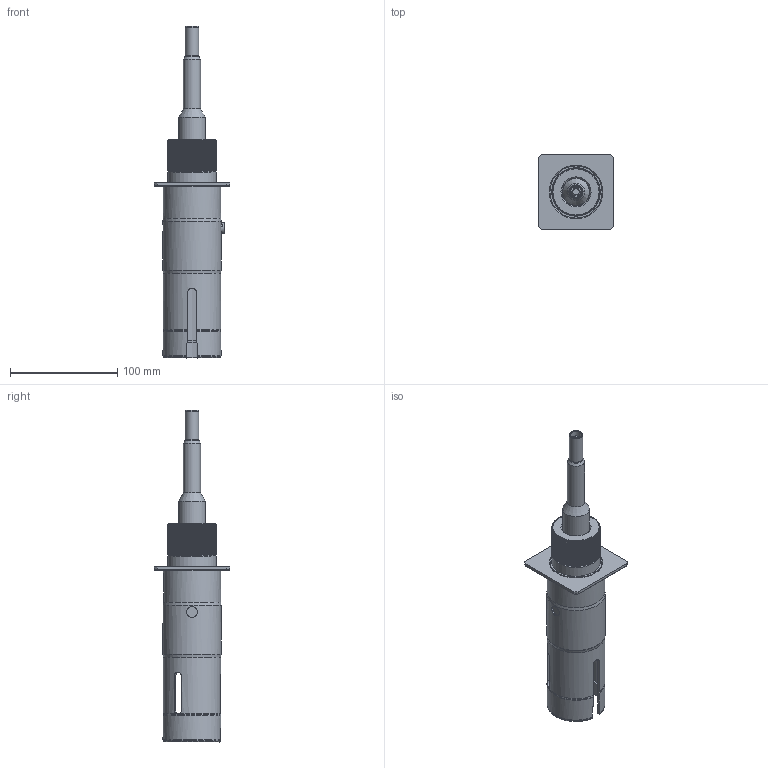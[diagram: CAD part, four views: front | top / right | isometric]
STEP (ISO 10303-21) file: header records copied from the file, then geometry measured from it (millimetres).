
FILE_DESCRIPTION(/* description */ ('©Copyright 2021 – UrheberrechtshinweisDiese CAD-Daten sind urheberrechtlich geschützt. Das Urheberrecht liegt, soweit nicht ausdrücklich anders gekennzeichnet, bei Stöger Automation GmbH.Bitte fragen Sie uns, falls Sie die CAD-Daten vervielfältigen oder zu'),/* implementation_level */ '2;1');
FILE_NAME(/* name */ 'C:\Users\Hesse\Desktop\Zwischenl\SchraubwerkzeugSpatz30-585216.stp',/* time_stamp */ '2021-12-09T08:17:08+01:00',/* author */ ('Stöger Automation GmbH'),/* organization */ ('Stöger Automation GmbH'),/* preprocessor_version */ 'ST-DEVELOPER v18.1',/* originating_system */ 'Autodesk Inventor 2021',/* authorisation */ '');
FILE_SCHEMA (('AUTOMOTIVE_DESIGN { 1 0 10303 214 3 1 1 }'));
Length unit declared in the file: millimetre
Products named in the file (1): 585216.ipt
Bounding box: 70 x 70 x 309 mm (x, y, z)
Volume: 286354.3 mm3; surface area: 66322.3 mm2
Topology: 1 solids, 1 shells, 536 faces, 1539 edges, 1020 vertices
Faces by surface type: plane 333, cylinder 178, cone 17, torus 8
Full cylindrical faces by diameter (mm): 6 x1, 8 x1, 9.77 x1, 10 x2, 10.1 x1, 12.5 x1, 16 x1, 25 x1, 26 x1, 41.5 x1, 45 x1, 48.5 x2, 53.5 x2, 54.5 x1
Entity records: 21175 total; most frequent: CARTESIAN_POINT 7297, ORIENTED_EDGE 3078, DIRECTION 2408, EDGE_CURVE 1539, VERTEX_POINT 1020, AXIS2_PLACEMENT_3D 916, LINE 576, VECTOR 576
